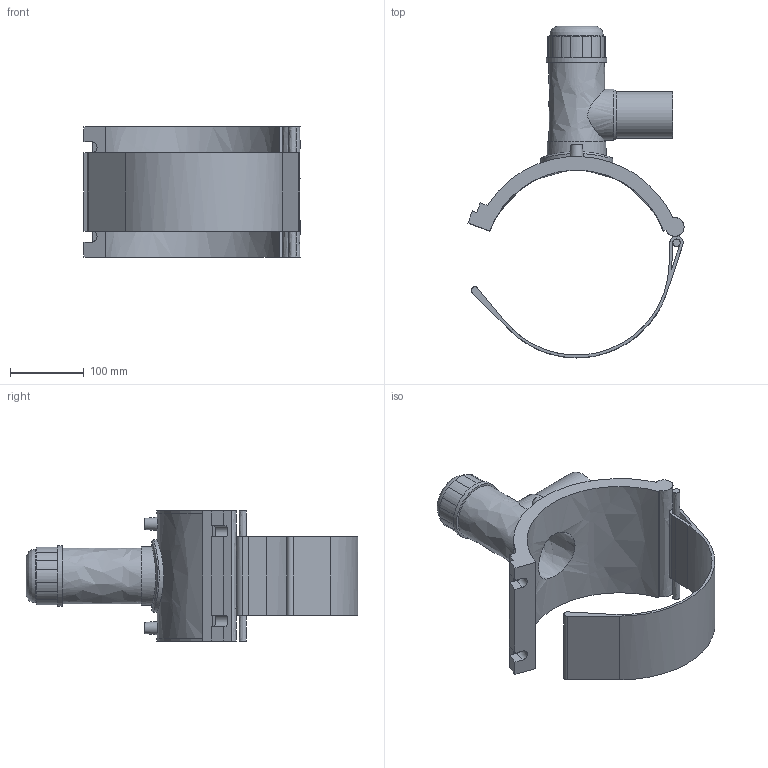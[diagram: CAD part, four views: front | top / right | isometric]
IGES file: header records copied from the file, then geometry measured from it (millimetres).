
Global section: file name: 491304250063; native system: Autodesk Inventor 2019; preprocessor: unknown; author: KIM; date: 20230323.112905; units: millimetre
Bounding box: 292.06 x 448.75 x 176 mm (x, y, z)
Volume: 1752223.3 mm3; surface area: 361950.7 mm2
Topology: 2 solids, 2 shells, 92 faces, 234 edges, 161 vertices
Faces by surface type: bspline 92
